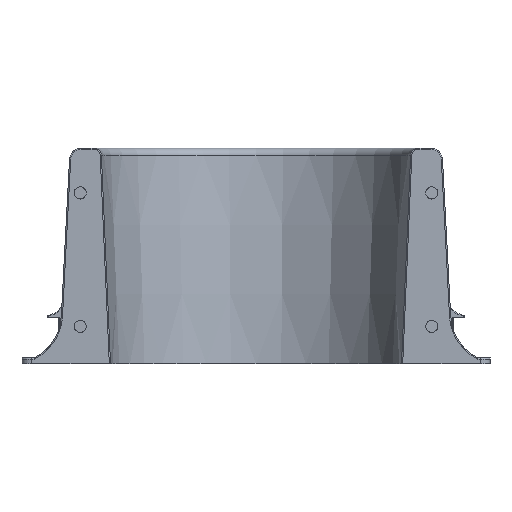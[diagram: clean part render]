
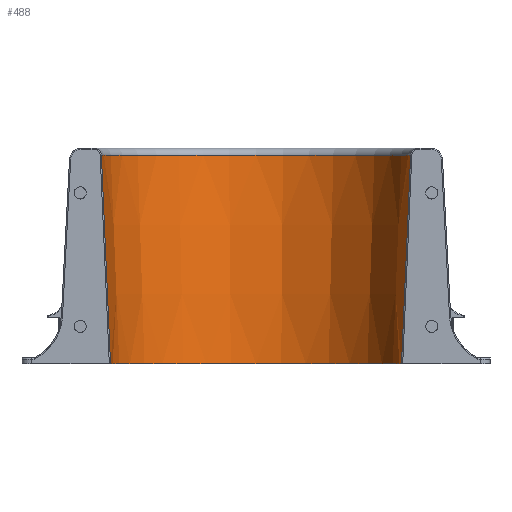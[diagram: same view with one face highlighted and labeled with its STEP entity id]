
A CAD part, front view. The second image highlights one B-rep face of the part: STEP entity #488.
In plain terms, the highlighted conical face has half-angle 2.5 degrees and reference radius 63.886 mm.
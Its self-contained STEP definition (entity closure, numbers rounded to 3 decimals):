
#488 = ADVANCED_FACE ( 'NONE', ( #3580 ), #3684, .F. ) ;
#830 = CARTESIAN_POINT ( 'NONE',  ( 0., 0., 89. ) ) ;
#1008 = DIRECTION ( 'NONE',  ( 0.044, 0., -0.999 ) ) ;
#1499 = DIRECTION ( 'NONE',  ( -1., 0., 0. ) ) ;
#1535 = CARTESIAN_POINT ( 'NONE',  ( 60., 0., 0. ) ) ;
#1612 = DIRECTION ( 'NONE',  ( 0., 0., -1. ) ) ;
#1728 = ORIENTED_EDGE ( 'NONE', *, *, #2917, .T. ) ;
#1739 = ORIENTED_EDGE ( 'NONE', *, *, #2915, .T. ) ;
#1800 = ORIENTED_EDGE ( 'NONE', *, *, #2893, .F. ) ;
#1813 = DIRECTION ( 'NONE',  ( -0.044, 0., -0.999 ) ) ;
#1864 = VERTEX_POINT ( 'NONE', #3209 ) ;
#2004 = CARTESIAN_POINT ( 'NONE',  ( 0., 0., 0. ) ) ;
#2037 = VECTOR ( 'NONE', #1008, 1000. ) ;
#2110 = CIRCLE ( 'NONE', #3049, 63.761 ) ;
#2143 = VERTEX_POINT ( 'NONE', #4133 ) ;
#2156 = LINE ( 'NONE', #3787, #2037 ) ;
#2229 = VECTOR ( 'NONE', #1813, 1000. ) ;
#2288 = LINE ( 'NONE', #1535, #2229 ) ;
#2525 = EDGE_LOOP ( 'NONE', ( #1800, #1739, #1728, #2628 ) ) ;
#2628 = ORIENTED_EDGE ( 'NONE', *, *, #2774, .T. ) ;
#2774 = EDGE_CURVE ( 'NONE', #2143, #1864, #3493, .T. ) ;
#2893 = EDGE_CURVE ( 'NONE', #4185, #1864, #2288, .T. ) ;
#2915 = EDGE_CURVE ( 'NONE', #4185, #3802, #2110, .T. ) ;
#2917 = EDGE_CURVE ( 'NONE', #3802, #2143, #2156, .T. ) ;
#3049 = AXIS2_PLACEMENT_3D ( 'NONE', #3503, #3491, #3465 ) ;
#3171 = DIRECTION ( 'NONE',  ( 0., 0., 1. ) ) ;
#3209 = CARTESIAN_POINT ( 'NONE',  ( 60., 0., 0. ) ) ;
#3220 = CARTESIAN_POINT ( 'NONE',  ( 63.761, 0., 86.131 ) ) ;
#3295 = DIRECTION ( 'NONE',  ( 1., 0., 0. ) ) ;
#3465 = DIRECTION ( 'NONE',  ( 1., 0., 0. ) ) ;
#3491 = DIRECTION ( 'NONE',  ( 0., 0., 1. ) ) ;
#3493 = CIRCLE ( 'NONE', #3788, 60. ) ;
#3503 = CARTESIAN_POINT ( 'NONE',  ( 0., 0., 86.131 ) ) ;
#3580 = FACE_OUTER_BOUND ( 'NONE', #2525, .T. ) ;
#3684 = CONICAL_SURFACE ( 'NONE', #3912, 63.886, 0.044 ) ;
#3787 = CARTESIAN_POINT ( 'NONE',  ( -60., 0., 0. ) ) ;
#3788 = AXIS2_PLACEMENT_3D ( 'NONE', #2004, #1612, #1499 ) ;
#3802 = VERTEX_POINT ( 'NONE', #4378 ) ;
#3912 = AXIS2_PLACEMENT_3D ( 'NONE', #830, #3171, #3295 ) ;
#4133 = CARTESIAN_POINT ( 'NONE',  ( -60., 0., 0. ) ) ;
#4185 = VERTEX_POINT ( 'NONE', #3220 ) ;
#4378 = CARTESIAN_POINT ( 'NONE',  ( -63.761, 0., 86.131 ) ) ;
